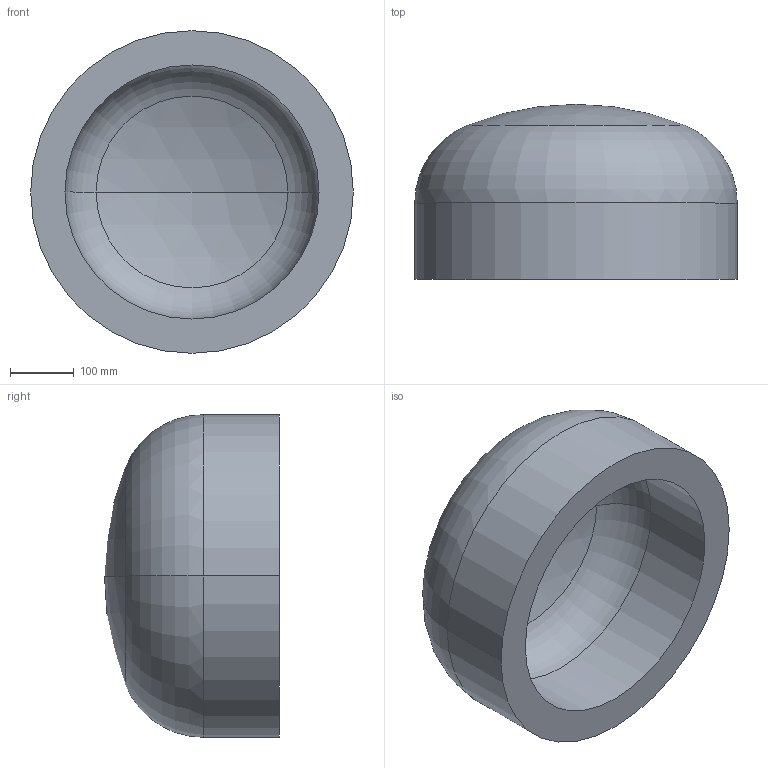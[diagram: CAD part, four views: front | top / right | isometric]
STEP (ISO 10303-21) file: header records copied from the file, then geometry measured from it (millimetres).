
FILE_DESCRIPTION (( 'STEP AP203' ), '1' );
FILE_NAME ('DIN 28013 Korbbogenform_-_Boden DIN 28013 - 508 x 120 - I - s=54.step', '2016-07-01T07:55:52', ( '' ), ( '' ), 'SwSTEP 2.0', 'SolidWorks 2013', '' );
FILE_SCHEMA (( 'CONFIG_CONTROL_DESIGN' ));
Length unit declared in the file: millimetre
Products named in the file (1): DIN 28013 Korbbogenform_-_Boden DIN 28013 - 508 x 120 - I - s=54
Bounding box: 508 x 275.53 x 508 mm (x, y, z)
Volume: 22531962.1 mm3; surface area: 917643.6 mm2
Topology: 1 solids, 1 shells, 13 faces, 24 edges, 14 vertices
Faces by surface type: torus 4, cylinder 4, sphere 4, plane 1
Entity records: 407 total; most frequent: DIRECTION 72, CARTESIAN_POINT 52, ORIENTED_EDGE 48, AXIS2_PLACEMENT_3D 34, EDGE_CURVE 24, CIRCLE 20, EDGE_LOOP 14, VERTEX_POINT 14
